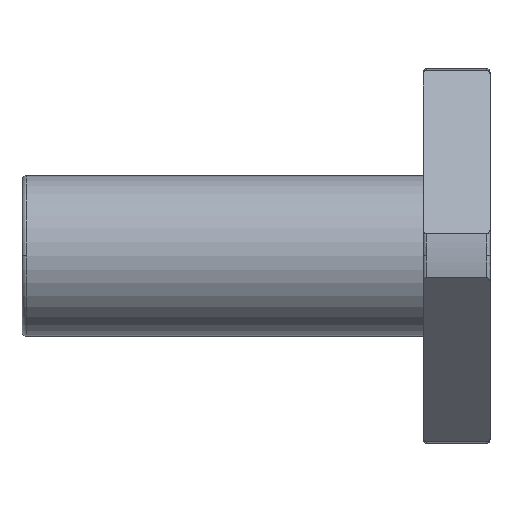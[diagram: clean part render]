
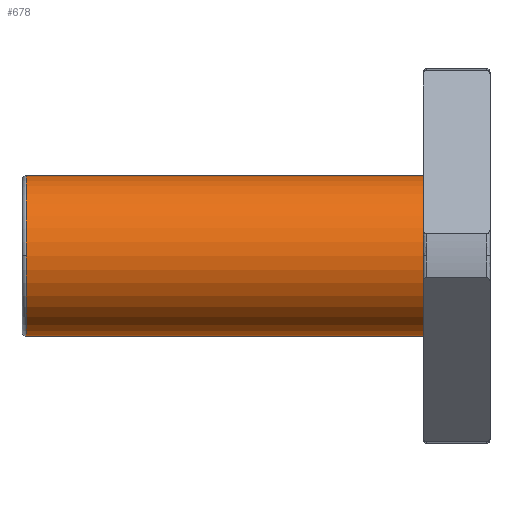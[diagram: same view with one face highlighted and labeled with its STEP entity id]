
A CAD part, top view. The second image highlights one B-rep face of the part: STEP entity #678.
In plain terms, the highlighted cylindrical face has radius 6 mm (diameter 12 mm), a partial arc.
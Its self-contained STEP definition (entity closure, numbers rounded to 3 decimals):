
#663 = PLANE('',#664);
#664 = AXIS2_PLACEMENT_3D('',#665,#666,#667);
#665 = CARTESIAN_POINT('',(-5.,9.875,0.));
#666 = DIRECTION('',(-1.,0.,0.));
#667 = DIRECTION('',(0.,-1.,0.));
#678 = ADVANCED_FACE('',(#679),#693,.T.);
#679 = FACE_BOUND('',#680,.T.);
#680 = EDGE_LOOP('',(#681,#716,#745,#774,#797));
#681 = ORIENTED_EDGE('',*,*,#682,.F.);
#682 = EDGE_CURVE('',#683,#685,#687,.T.);
#683 = VERTEX_POINT('',#684);
#684 = CARTESIAN_POINT('',(-34.7,6.,0.));
#685 = VERTEX_POINT('',#686);
#686 = CARTESIAN_POINT('',(-5.,6.,0.));
#687 = SURFACE_CURVE('',#688,(#692,#704),.PCURVE_S1.);
#688 = LINE('',#689,#690);
#689 = CARTESIAN_POINT('',(-19.85,6.,0.));
#690 = VECTOR('',#691,1.);
#691 = DIRECTION('',(1.,0.,0.));
#692 = PCURVE('',#693,#698);
#693 = CYLINDRICAL_SURFACE('',#694,6.);
#694 = AXIS2_PLACEMENT_3D('',#695,#696,#697);
#695 = CARTESIAN_POINT('',(-19.85,0.,0.));
#696 = DIRECTION('',(1.,0.,0.));
#697 = DIRECTION('',(-0.,1.,0.));
#698 = DEFINITIONAL_REPRESENTATION('',(#699),#703);
#699 = LINE('',#700,#701);
#700 = CARTESIAN_POINT('',(0.,0.));
#701 = VECTOR('',#702,1.);
#702 = DIRECTION('',(0.,1.));
#703 = ( GEOMETRIC_REPRESENTATION_CONTEXT(2) 
PARAMETRIC_REPRESENTATION_CONTEXT() REPRESENTATION_CONTEXT('2D SPACE',''
  ) );
#704 = PCURVE('',#705,#710);
#705 = CYLINDRICAL_SURFACE('',#706,6.);
#706 = AXIS2_PLACEMENT_3D('',#707,#708,#709);
#707 = CARTESIAN_POINT('',(-19.85,0.,0.));
#708 = DIRECTION('',(1.,0.,0.));
#709 = DIRECTION('',(-0.,1.,0.));
#710 = DEFINITIONAL_REPRESENTATION('',(#711),#715);
#711 = LINE('',#712,#713);
#712 = CARTESIAN_POINT('',(6.283,0.));
#713 = VECTOR('',#714,1.);
#714 = DIRECTION('',(0.,1.));
#715 = ( GEOMETRIC_REPRESENTATION_CONTEXT(2) 
PARAMETRIC_REPRESENTATION_CONTEXT() REPRESENTATION_CONTEXT('2D SPACE',''
  ) );
#716 = ORIENTED_EDGE('',*,*,#717,.T.);
#717 = EDGE_CURVE('',#683,#718,#720,.T.);
#718 = VERTEX_POINT('',#719);
#719 = CARTESIAN_POINT('',(-34.7,0.,6.));
#720 = SURFACE_CURVE('',#721,(#726,#733),.PCURVE_S1.);
#721 = CIRCLE('',#722,6.);
#722 = AXIS2_PLACEMENT_3D('',#723,#724,#725);
#723 = CARTESIAN_POINT('',(-34.7,0.,0.));
#724 = DIRECTION('',(1.,0.,0.));
#725 = DIRECTION('',(-0.,1.,0.));
#726 = PCURVE('',#693,#727);
#727 = DEFINITIONAL_REPRESENTATION('',(#728),#732);
#728 = LINE('',#729,#730);
#729 = CARTESIAN_POINT('',(0.,-14.85));
#730 = VECTOR('',#731,1.);
#731 = DIRECTION('',(1.,0.));
#732 = ( GEOMETRIC_REPRESENTATION_CONTEXT(2) 
PARAMETRIC_REPRESENTATION_CONTEXT() REPRESENTATION_CONTEXT('2D SPACE',''
  ) );
#733 = PCURVE('',#734,#739);
#734 = TOROIDAL_SURFACE('',#735,5.7,0.3);
#735 = AXIS2_PLACEMENT_3D('',#736,#737,#738);
#736 = CARTESIAN_POINT('',(-34.7,0.,0.));
#737 = DIRECTION('',(1.,0.,0.));
#738 = DIRECTION('',(0.,0.,-1.));
#739 = DEFINITIONAL_REPRESENTATION('',(#740),#744);
#740 = LINE('',#741,#742);
#741 = CARTESIAN_POINT('',(1.571,6.283));
#742 = VECTOR('',#743,1.);
#743 = DIRECTION('',(1.,0.));
#744 = ( GEOMETRIC_REPRESENTATION_CONTEXT(2) 
PARAMETRIC_REPRESENTATION_CONTEXT() REPRESENTATION_CONTEXT('2D SPACE',''
  ) );
#745 = ORIENTED_EDGE('',*,*,#746,.T.);
#746 = EDGE_CURVE('',#718,#747,#749,.T.);
#747 = VERTEX_POINT('',#748);
#748 = CARTESIAN_POINT('',(-34.7,-6.,0.));
#749 = SURFACE_CURVE('',#750,(#755,#762),.PCURVE_S1.);
#750 = CIRCLE('',#751,6.);
#751 = AXIS2_PLACEMENT_3D('',#752,#753,#754);
#752 = CARTESIAN_POINT('',(-34.7,0.,0.));
#753 = DIRECTION('',(1.,0.,0.));
#754 = DIRECTION('',(-0.,1.,0.));
#755 = PCURVE('',#693,#756);
#756 = DEFINITIONAL_REPRESENTATION('',(#757),#761);
#757 = LINE('',#758,#759);
#758 = CARTESIAN_POINT('',(0.,-14.85));
#759 = VECTOR('',#760,1.);
#760 = DIRECTION('',(1.,0.));
#761 = ( GEOMETRIC_REPRESENTATION_CONTEXT(2) 
PARAMETRIC_REPRESENTATION_CONTEXT() REPRESENTATION_CONTEXT('2D SPACE',''
  ) );
#762 = PCURVE('',#763,#768);
#763 = TOROIDAL_SURFACE('',#764,5.7,0.3);
#764 = AXIS2_PLACEMENT_3D('',#765,#766,#767);
#765 = CARTESIAN_POINT('',(-34.7,0.,0.));
#766 = DIRECTION('',(1.,0.,0.));
#767 = DIRECTION('',(0.,0.,-1.));
#768 = DEFINITIONAL_REPRESENTATION('',(#769),#773);
#769 = LINE('',#770,#771);
#770 = CARTESIAN_POINT('',(1.571,6.283));
#771 = VECTOR('',#772,1.);
#772 = DIRECTION('',(1.,0.));
#773 = ( GEOMETRIC_REPRESENTATION_CONTEXT(2) 
PARAMETRIC_REPRESENTATION_CONTEXT() REPRESENTATION_CONTEXT('2D SPACE',''
  ) );
#774 = ORIENTED_EDGE('',*,*,#775,.F.);
#775 = EDGE_CURVE('',#776,#747,#778,.T.);
#776 = VERTEX_POINT('',#777);
#777 = CARTESIAN_POINT('',(-5.,-6.,0.));
#778 = SURFACE_CURVE('',#779,(#783,#790),.PCURVE_S1.);
#779 = LINE('',#780,#781);
#780 = CARTESIAN_POINT('',(-19.85,-6.,0.));
#781 = VECTOR('',#782,1.);
#782 = DIRECTION('',(-1.,-0.,-0.));
#783 = PCURVE('',#693,#784);
#784 = DEFINITIONAL_REPRESENTATION('',(#785),#789);
#785 = LINE('',#786,#787);
#786 = CARTESIAN_POINT('',(3.142,0.));
#787 = VECTOR('',#788,1.);
#788 = DIRECTION('',(0.,-1.));
#789 = ( GEOMETRIC_REPRESENTATION_CONTEXT(2) 
PARAMETRIC_REPRESENTATION_CONTEXT() REPRESENTATION_CONTEXT('2D SPACE',''
  ) );
#790 = PCURVE('',#705,#791);
#791 = DEFINITIONAL_REPRESENTATION('',(#792),#796);
#792 = LINE('',#793,#794);
#793 = CARTESIAN_POINT('',(3.142,0.));
#794 = VECTOR('',#795,1.);
#795 = DIRECTION('',(0.,-1.));
#796 = ( GEOMETRIC_REPRESENTATION_CONTEXT(2) 
PARAMETRIC_REPRESENTATION_CONTEXT() REPRESENTATION_CONTEXT('2D SPACE',''
  ) );
#797 = ORIENTED_EDGE('',*,*,#798,.F.);
#798 = EDGE_CURVE('',#685,#776,#799,.T.);
#799 = SURFACE_CURVE('',#800,(#805,#812),.PCURVE_S1.);
#800 = CIRCLE('',#801,6.);
#801 = AXIS2_PLACEMENT_3D('',#802,#803,#804);
#802 = CARTESIAN_POINT('',(-5.,0.,0.));
#803 = DIRECTION('',(1.,0.,0.));
#804 = DIRECTION('',(-0.,1.,0.));
#805 = PCURVE('',#693,#806);
#806 = DEFINITIONAL_REPRESENTATION('',(#807),#811);
#807 = LINE('',#808,#809);
#808 = CARTESIAN_POINT('',(0.,14.85));
#809 = VECTOR('',#810,1.);
#810 = DIRECTION('',(1.,0.));
#811 = ( GEOMETRIC_REPRESENTATION_CONTEXT(2) 
PARAMETRIC_REPRESENTATION_CONTEXT() REPRESENTATION_CONTEXT('2D SPACE',''
  ) );
#812 = PCURVE('',#663,#813);
#813 = DEFINITIONAL_REPRESENTATION('',(#814),#822);
#814 = ( BOUNDED_CURVE() B_SPLINE_CURVE(2,(#815,#816,#817,#818,#819,#820
,#821),.UNSPECIFIED.,.T.,.F.) B_SPLINE_CURVE_WITH_KNOTS((1,2,2,2,2,1),(
    -2.094,0.,2.094,4.189,6.283,
8.378),.UNSPECIFIED.) CURVE() GEOMETRIC_REPRESENTATION_ITEM() 
RATIONAL_B_SPLINE_CURVE((1.,0.5,1.,0.5,1.,0.5,1.)) REPRESENTATION_ITEM(
  '') );
#815 = CARTESIAN_POINT('',(3.875,0.));
#816 = CARTESIAN_POINT('',(3.875,10.392));
#817 = CARTESIAN_POINT('',(12.875,5.196));
#818 = CARTESIAN_POINT('',(21.875,0.));
#819 = CARTESIAN_POINT('',(12.875,-5.196));
#820 = CARTESIAN_POINT('',(3.875,-10.392));
#821 = CARTESIAN_POINT('',(3.875,0.));
#822 = ( GEOMETRIC_REPRESENTATION_CONTEXT(2) 
PARAMETRIC_REPRESENTATION_CONTEXT() REPRESENTATION_CONTEXT('2D SPACE',''
  ) );
